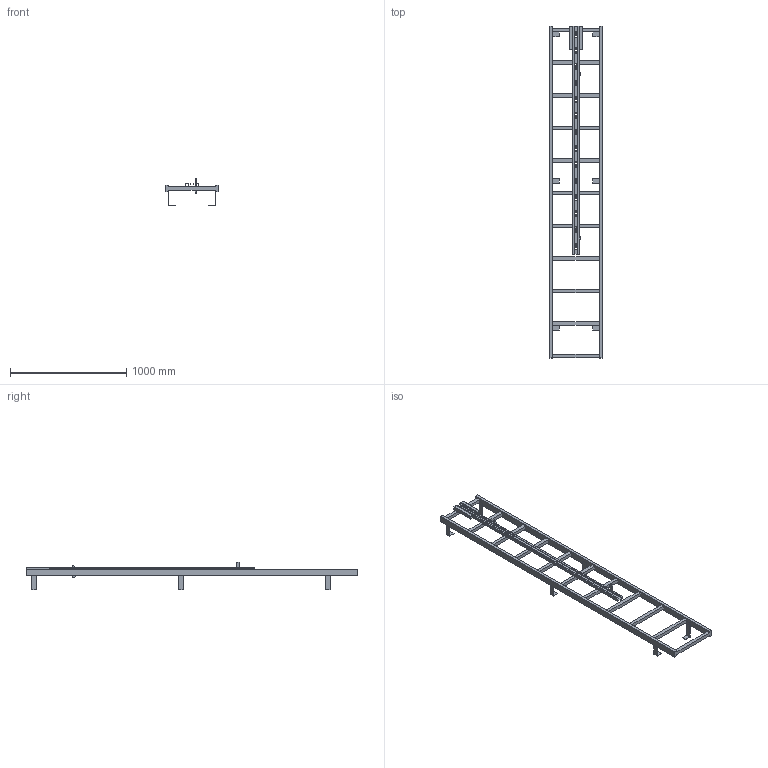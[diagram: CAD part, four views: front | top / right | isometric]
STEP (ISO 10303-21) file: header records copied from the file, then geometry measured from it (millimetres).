
FILE_DESCRIPTION((''),'2;1');
FILE_NAME('52316171','2024-12-03T14:04:21',('wep'),('HUBER SE'),'CREO PARAMETRIC BY PTC INC, 2022162','CREO PARAMETRIC BY PTC INC, 2022162','');
FILE_SCHEMA(('AUTOMOTIVE_DESIGN { 1 0 10303 214 1 1 1 1 }'));
Length unit declared in the file: millimetre
Products named in the file (1): 52316171
Bounding box: 450 x 2850 x 239 mm (x, y, z)
Volume: 12513844 mm3; surface area: 2120122.5 mm2
Topology: 2 solids, 2 shells, 208 faces, 598 edges, 390 vertices
Faces by surface type: plane 208
Entity records: 7305 total; most frequent: CARTESIAN_POINT 1198, ORIENTED_EDGE 1196, DIRECTION 1014, VECTOR 598, LINE 598, EDGE_CURVE 598, VERTEX_POINT 390, EDGE_LOOP 256
